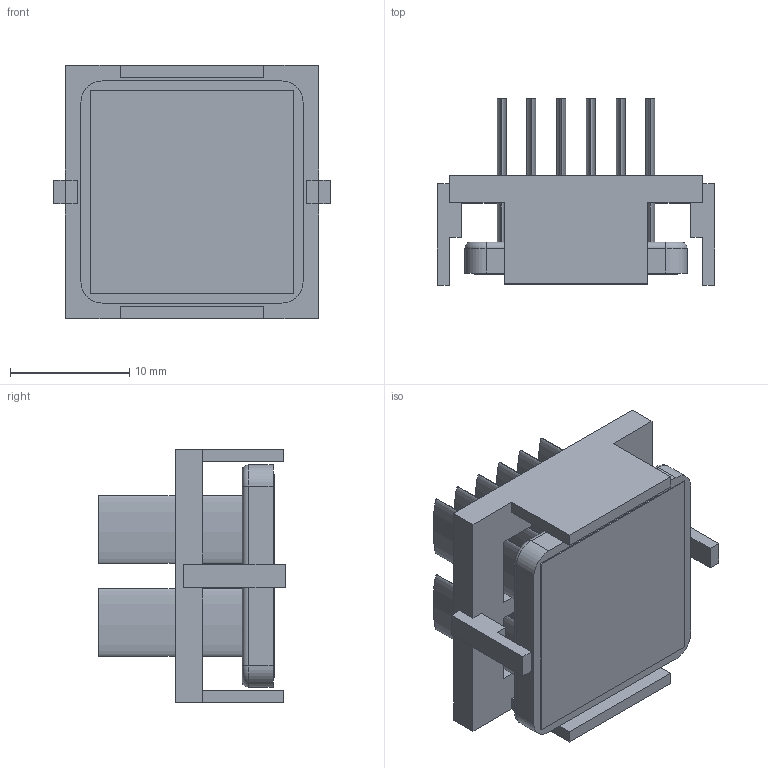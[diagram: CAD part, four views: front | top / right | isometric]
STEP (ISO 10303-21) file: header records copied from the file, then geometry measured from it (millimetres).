
FILE_DESCRIPTION (( 'STEP AP214' ), '1' );
FILE_NAME ('INM19001-15W-2.6O.STEP', '2023-03-02T18:16:01', ( '' ), ( '' ), 'SwSTEP 2.0', 'SolidWorks 2020', '' );
FILE_SCHEMA (( 'AUTOMOTIVE_DESIGN' ));
Length unit declared in the file: millimetre
Products named in the file (1): INM19001-15W-2.6O
Bounding box: 23.2 x 15.6 x 21.2 mm (x, y, z)
Volume: 2257 mm3; surface area: 4522.9 mm2
Topology: 3 solids, 3 shells, 106 faces, 256 edges, 168 vertices
Faces by surface type: plane 70, bspline 24, cylinder 8, torus 4
Entity records: 4330 total; most frequent: CARTESIAN_POINT 843, ORIENTED_EDGE 512, DIRECTION 394, EDGE_CURVE 256, LINE 188, VECTOR 188, VERTEX_POINT 168, EDGE_LOOP 120
